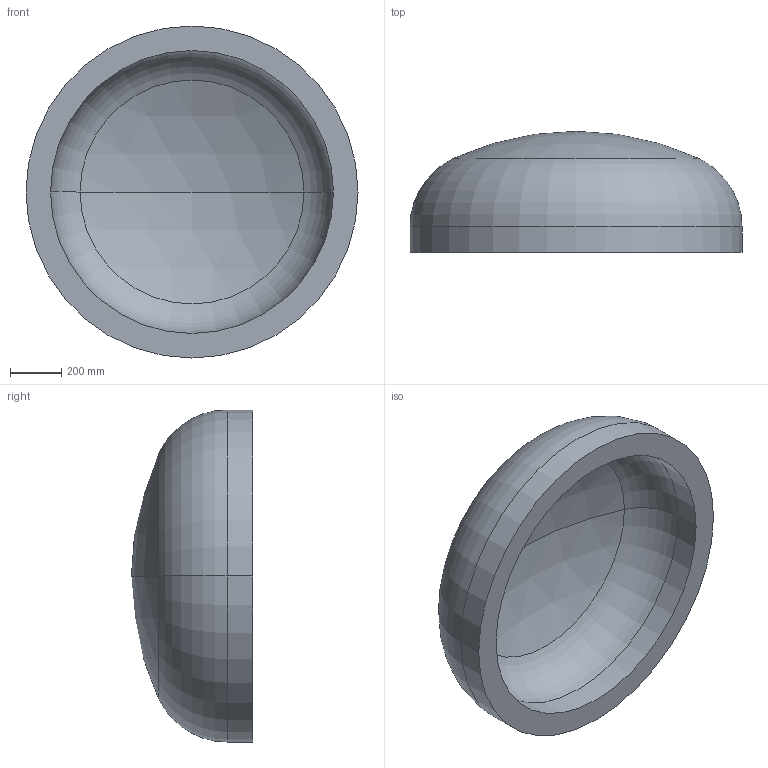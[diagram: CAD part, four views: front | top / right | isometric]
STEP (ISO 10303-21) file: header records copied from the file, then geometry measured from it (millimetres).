
FILE_DESCRIPTION (( 'STEP AP203' ), '1' );
FILE_NAME ('DIN 28013 Korbbogenform_-_Boden DIN 28013 - 1300 x 100 - I - s=96.step', '2016-07-01T10:01:22', ( '' ), ( '' ), 'SwSTEP 2.0', 'SolidWorks 2013', '' );
FILE_SCHEMA (( 'CONFIG_CONTROL_DESIGN' ));
Length unit declared in the file: millimetre
Products named in the file (1): DIN 28013 Korbbogenform_-_Boden DIN 28013 - 1300 x 100 - I - s=96
Bounding box: 1300 x 474.24 x 1300 mm (x, y, z)
Volume: 197065403.2 mm3; surface area: 4487948.2 mm2
Topology: 1 solids, 1 shells, 13 faces, 24 edges, 14 vertices
Faces by surface type: torus 4, cylinder 4, sphere 4, plane 1
Entity records: 407 total; most frequent: DIRECTION 72, CARTESIAN_POINT 52, ORIENTED_EDGE 48, AXIS2_PLACEMENT_3D 34, EDGE_CURVE 24, CIRCLE 20, VERTEX_POINT 14, EDGE_LOOP 14
